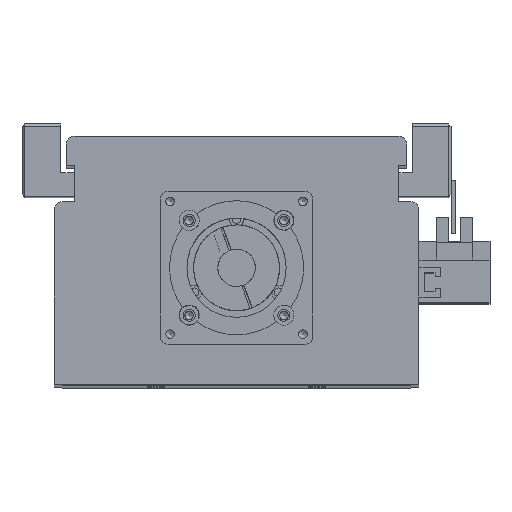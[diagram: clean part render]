
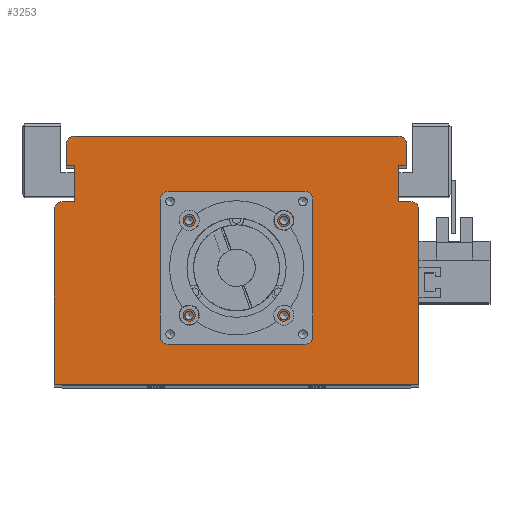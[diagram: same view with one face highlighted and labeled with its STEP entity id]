
A CAD part, top view. The second image highlights one B-rep face of the part: STEP entity #3253.
In plain terms, the highlighted planar face has unit normal (0, 0, 1).
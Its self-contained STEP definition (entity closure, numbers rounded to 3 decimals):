
#1811=CARTESIAN_POINT('',(19.321,61.5,595.));
#1812=VERTEX_POINT('',#1811);
#1813=CARTESIAN_POINT('',(17.7,61.5,595.));
#1814=DIRECTION('',(0.0,0.0,-1.0));
#1815=DIRECTION('',(1.0,0.0,0.0));
#1816=AXIS2_PLACEMENT_3D('',#1813,#1814,#1815);
#1817=CIRCLE('',#1816,1.621);
#1818=EDGE_CURVE('',#1812,#1812,#1817,.T.);
#1890=CARTESIAN_POINT('',(19.321,26.1,595.));
#1891=VERTEX_POINT('',#1890);
#1892=CARTESIAN_POINT('',(17.7,26.1,595.));
#1893=DIRECTION('',(0.0,0.0,-1.0));
#1894=DIRECTION('',(1.0,0.0,0.0));
#1895=AXIS2_PLACEMENT_3D('',#1892,#1893,#1894);
#1896=CIRCLE('',#1895,1.621);
#1897=EDGE_CURVE('',#1891,#1891,#1896,.T.);
#1969=CARTESIAN_POINT('',(-16.079,26.1,595.));
#1970=VERTEX_POINT('',#1969);
#1971=CARTESIAN_POINT('',(-17.7,26.1,595.));
#1972=DIRECTION('',(0.0,0.0,-1.0));
#1973=DIRECTION('',(1.0,0.0,0.0));
#1974=AXIS2_PLACEMENT_3D('',#1971,#1972,#1973);
#1975=CIRCLE('',#1974,1.621);
#1976=EDGE_CURVE('',#1970,#1970,#1975,.T.);
#2048=CARTESIAN_POINT('',(-16.079,61.5,595.));
#2049=VERTEX_POINT('',#2048);
#2050=CARTESIAN_POINT('',(-17.7,61.5,595.));
#2051=DIRECTION('',(0.0,0.0,-1.0));
#2052=DIRECTION('',(1.0,0.0,0.0));
#2053=AXIS2_PLACEMENT_3D('',#2050,#2051,#2052);
#2054=CIRCLE('',#2053,1.621);
#2055=EDGE_CURVE('',#2049,#2049,#2054,.T.);
#2089=CARTESIAN_POINT('',(26.5,43.8,595.));
#2090=VERTEX_POINT('',#2089);
#2091=CARTESIAN_POINT('',(24.5,43.8,595.));
#2092=DIRECTION('',(0.0,0.0,-1.0));
#2093=DIRECTION('',(1.0,0.0,0.0));
#2094=AXIS2_PLACEMENT_3D('',#2091,#2092,#2093);
#2095=CIRCLE('',#2094,2.0);
#2096=EDGE_CURVE('',#2090,#2090,#2095,.T.);
#2138=CARTESIAN_POINT('',(-22.5,43.8,595.));
#2139=VERTEX_POINT('',#2138);
#2140=CARTESIAN_POINT('',(-24.5,43.8,595.));
#2141=DIRECTION('',(0.0,0.0,-1.0));
#2142=DIRECTION('',(1.0,0.0,0.0));
#2143=AXIS2_PLACEMENT_3D('',#2140,#2141,#2142);
#2144=CIRCLE('',#2143,2.0);
#2145=EDGE_CURVE('',#2139,#2139,#2144,.T.);
#3069=CARTESIAN_POINT('',(21.05,43.8,595.));
#3070=VERTEX_POINT('',#3069);
#3071=CARTESIAN_POINT('',(0.0,43.8,595.));
#3072=DIRECTION('',(0.0,0.0,-1.0));
#3073=DIRECTION('',(-1.0,0.0,0.0));
#3074=AXIS2_PLACEMENT_3D('',#3071,#3072,#3073);
#3075=CIRCLE('',#3074,21.05);
#3076=EDGE_CURVE('',#3070,#3070,#3075,.T.);
#3093=CARTESIAN_POINT('',(0.,29.533,595.));
#3094=DIRECTION('',(0.0,0.0,1.0));
#3095=DIRECTION('',(1.0,0.0,0.0));
#3096=AXIS2_PLACEMENT_3D('',#3093,#3094,#3095);
#3097=PLANE('',#3096);
#3098=CARTESIAN_POINT('',(-65.,68.5,595.));
#3099=VERTEX_POINT('',#3098);
#3100=CARTESIAN_POINT('',(-60.5,68.5,595.0));
#3101=VERTEX_POINT('',#3100);
#3102=CARTESIAN_POINT('',(-65.,68.5,595.));
#3103=DIRECTION('',(1.0,0.0,0.0));
#3104=VECTOR('',#3103,4.5);
#3105=LINE('',#3102,#3104);
#3106=EDGE_CURVE('',#3099,#3101,#3105,.T.);
#3107=ORIENTED_EDGE('',*,*,#3106,.F.);
#3108=CARTESIAN_POINT('',(-68.,65.5,595.));
#3109=VERTEX_POINT('',#3108);
#3110=CARTESIAN_POINT('',(-65.,65.5,595.0));
#3111=DIRECTION('',(0.0,0.0,-1.0));
#3112=DIRECTION('',(0.0,1.0,0.0));
#3113=AXIS2_PLACEMENT_3D('',#3110,#3111,#3112);
#3114=CIRCLE('',#3113,3.);
#3115=EDGE_CURVE('',#3109,#3099,#3114,.T.);
#3116=ORIENTED_EDGE('',*,*,#3115,.F.);
#3117=CARTESIAN_POINT('',(-68.0,0.5,595.));
#3118=VERTEX_POINT('',#3117);
#3119=CARTESIAN_POINT('',(-68.0,0.5,595.));
#3120=DIRECTION('',(0.0,1.0,0.0));
#3121=VECTOR('',#3120,65.0);
#3122=LINE('',#3119,#3121);
#3123=EDGE_CURVE('',#3118,#3109,#3122,.T.);
#3124=ORIENTED_EDGE('',*,*,#3123,.F.);
#3125=CARTESIAN_POINT('',(68.0,0.5,595.));
#3126=VERTEX_POINT('',#3125);
#3127=CARTESIAN_POINT('',(68.0,0.5,595.));
#3128=DIRECTION('',(-1.0,0.0,0.0));
#3129=VECTOR('',#3128,136.0);
#3130=LINE('',#3127,#3129);
#3131=EDGE_CURVE('',#3126,#3118,#3130,.T.);
#3132=ORIENTED_EDGE('',*,*,#3131,.F.);
#3133=CARTESIAN_POINT('',(68.0,65.5,595.));
#3134=VERTEX_POINT('',#3133);
#3135=CARTESIAN_POINT('',(68.0,65.5,595.));
#3136=DIRECTION('',(0.0,-1.0,0.0));
#3137=VECTOR('',#3136,65.0);
#3138=LINE('',#3135,#3137);
#3139=EDGE_CURVE('',#3134,#3126,#3138,.T.);
#3140=ORIENTED_EDGE('',*,*,#3139,.F.);
#3141=CARTESIAN_POINT('',(65.,68.5,595.));
#3142=VERTEX_POINT('',#3141);
#3143=CARTESIAN_POINT('',(65.,65.5,595.0));
#3144=DIRECTION('',(0.0,0.0,-1.0));
#3145=DIRECTION('',(1.0,0.0,0.0));
#3146=AXIS2_PLACEMENT_3D('',#3143,#3144,#3145);
#3147=CIRCLE('',#3146,3.);
#3148=EDGE_CURVE('',#3142,#3134,#3147,.T.);
#3149=ORIENTED_EDGE('',*,*,#3148,.F.);
#3150=CARTESIAN_POINT('',(60.5,68.5,595.0));
#3151=VERTEX_POINT('',#3150);
#3152=CARTESIAN_POINT('',(60.5,68.5,595.0));
#3153=DIRECTION('',(1.0,0.0,0.0));
#3154=VECTOR('',#3153,4.5);
#3155=LINE('',#3152,#3154);
#3156=EDGE_CURVE('',#3151,#3142,#3155,.T.);
#3157=ORIENTED_EDGE('',*,*,#3156,.F.);
#3158=CARTESIAN_POINT('',(60.5,82.,595.));
#3159=VERTEX_POINT('',#3158);
#3160=CARTESIAN_POINT('',(60.5,82.,595.));
#3161=DIRECTION('',(0.0,-1.0,0.0));
#3162=VECTOR('',#3161,13.5);
#3163=LINE('',#3160,#3162);
#3164=EDGE_CURVE('',#3159,#3151,#3163,.T.);
#3165=ORIENTED_EDGE('',*,*,#3164,.F.);
#3166=CARTESIAN_POINT('',(63.5,82.,595.));
#3167=VERTEX_POINT('',#3166);
#3168=CARTESIAN_POINT('',(63.5,82.,595.));
#3169=DIRECTION('',(-1.0,0.0,0.0));
#3170=VECTOR('',#3169,3.0);
#3171=LINE('',#3168,#3170);
#3172=EDGE_CURVE('',#3167,#3159,#3171,.T.);
#3173=ORIENTED_EDGE('',*,*,#3172,.F.);
#3174=CARTESIAN_POINT('',(63.5,90.0,595.));
#3175=VERTEX_POINT('',#3174);
#3176=CARTESIAN_POINT('',(63.5,90.0,595.));
#3177=DIRECTION('',(0.0,-1.0,0.0));
#3178=VECTOR('',#3177,8.);
#3179=LINE('',#3176,#3178);
#3180=EDGE_CURVE('',#3175,#3167,#3179,.T.);
#3181=ORIENTED_EDGE('',*,*,#3180,.F.);
#3182=CARTESIAN_POINT('',(60.5,93.,595.));
#3183=VERTEX_POINT('',#3182);
#3184=CARTESIAN_POINT('',(60.5,90.0,595.0));
#3185=DIRECTION('',(0.0,0.0,-1.0));
#3186=DIRECTION('',(1.0,0.0,0.0));
#3187=AXIS2_PLACEMENT_3D('',#3184,#3185,#3186);
#3188=CIRCLE('',#3187,3.);
#3189=EDGE_CURVE('',#3183,#3175,#3188,.T.);
#3190=ORIENTED_EDGE('',*,*,#3189,.F.);
#3191=CARTESIAN_POINT('',(-60.5,93.0,595.));
#3192=VERTEX_POINT('',#3191);
#3193=CARTESIAN_POINT('',(-60.5,93.0,595.));
#3194=DIRECTION('',(1.0,0.0,0.0));
#3195=VECTOR('',#3194,121.0);
#3196=LINE('',#3193,#3195);
#3197=EDGE_CURVE('',#3192,#3183,#3196,.T.);
#3198=ORIENTED_EDGE('',*,*,#3197,.F.);
#3199=CARTESIAN_POINT('',(-63.5,90.0,595.));
#3200=VERTEX_POINT('',#3199);
#3201=CARTESIAN_POINT('',(-60.5,90.0,595.0));
#3202=DIRECTION('',(0.0,0.0,-1.0));
#3203=DIRECTION('',(0.0,1.0,0.0));
#3204=AXIS2_PLACEMENT_3D('',#3201,#3202,#3203);
#3205=CIRCLE('',#3204,3.);
#3206=EDGE_CURVE('',#3200,#3192,#3205,.T.);
#3207=ORIENTED_EDGE('',*,*,#3206,.F.);
#3208=CARTESIAN_POINT('',(-63.5,82.,595.));
#3209=VERTEX_POINT('',#3208);
#3210=CARTESIAN_POINT('',(-63.5,82.,595.));
#3211=DIRECTION('',(0.0,1.0,0.0));
#3212=VECTOR('',#3211,8.);
#3213=LINE('',#3210,#3212);
#3214=EDGE_CURVE('',#3209,#3200,#3213,.T.);
#3215=ORIENTED_EDGE('',*,*,#3214,.F.);
#3216=CARTESIAN_POINT('',(-60.5,82.,595.));
#3217=VERTEX_POINT('',#3216);
#3218=CARTESIAN_POINT('',(-60.5,82.,595.));
#3219=DIRECTION('',(-1.0,0.0,0.0));
#3220=VECTOR('',#3219,3.);
#3221=LINE('',#3218,#3220);
#3222=EDGE_CURVE('',#3217,#3209,#3221,.T.);
#3223=ORIENTED_EDGE('',*,*,#3222,.F.);
#3224=CARTESIAN_POINT('',(-60.5,68.5,595.0));
#3225=DIRECTION('',(0.0,1.0,0.0));
#3226=VECTOR('',#3225,13.5);
#3227=LINE('',#3224,#3226);
#3228=EDGE_CURVE('',#3101,#3217,#3227,.T.);
#3229=ORIENTED_EDGE('',*,*,#3228,.F.);
#3230=EDGE_LOOP('',(#3107,#3116,#3124,#3132,#3140,#3149,#3157,#3165,#3173,#3181,#3190,#3198,#3207,#3215,#3223,#3229));
#3231=FACE_OUTER_BOUND('',#3230,.T.);
#3232=ORIENTED_EDGE('',*,*,#1818,.T.);
#3233=EDGE_LOOP('',(#3232));
#3234=FACE_BOUND('',#3233,.T.);
#3235=ORIENTED_EDGE('',*,*,#1897,.T.);
#3236=EDGE_LOOP('',(#3235));
#3237=FACE_BOUND('',#3236,.T.);
#3238=ORIENTED_EDGE('',*,*,#1976,.T.);
#3239=EDGE_LOOP('',(#3238));
#3240=FACE_BOUND('',#3239,.T.);
#3241=ORIENTED_EDGE('',*,*,#2055,.T.);
#3242=EDGE_LOOP('',(#3241));
#3243=FACE_BOUND('',#3242,.T.);
#3244=ORIENTED_EDGE('',*,*,#2096,.T.);
#3245=EDGE_LOOP('',(#3244));
#3246=FACE_BOUND('',#3245,.T.);
#3247=ORIENTED_EDGE('',*,*,#2145,.T.);
#3248=EDGE_LOOP('',(#3247));
#3249=FACE_BOUND('',#3248,.T.);
#3250=ORIENTED_EDGE('',*,*,#3076,.T.);
#3251=EDGE_LOOP('',(#3250));
#3252=FACE_BOUND('',#3251,.T.);
#3253=ADVANCED_FACE('',(#3231,#3234,#3237,#3240,#3243,#3246,#3249,#3252),#3097,.T.);
